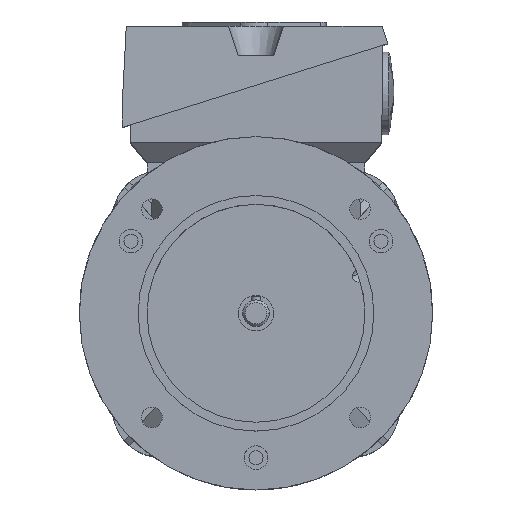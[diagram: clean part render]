
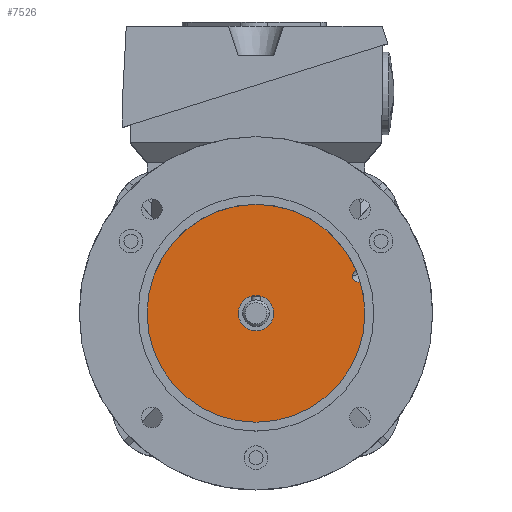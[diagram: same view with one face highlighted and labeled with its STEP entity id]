
A CAD part, top view. The second image highlights one B-rep face of the part: STEP entity #7526.
In plain terms, the highlighted planar face has unit normal (0, 0, 1).
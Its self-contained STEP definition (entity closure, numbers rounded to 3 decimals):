
#129 = VERTEX_POINT ( 'NONE', #9500 ) ;
#350 = CARTESIAN_POINT ( 'NONE',  ( 32.748, 13.344, 4. ) ) ;
#504 =( BOUNDED_CURVE ( )  B_SPLINE_CURVE ( 3, ( #4292, #350, #10384, #12526 ),
 .UNSPECIFIED., .F., .T. ) 
 B_SPLINE_CURVE_WITH_KNOTS ( ( 4, 4 ),
 ( 0.252, 1.111 ),
 .UNSPECIFIED. ) 
 CURVE ( )  GEOMETRIC_REPRESENTATION_ITEM ( )  RATIONAL_B_SPLINE_CURVE ( ( 1., 0.939, 0.939, 1. ) ) 
 REPRESENTATION_ITEM ( '' )  );
#733 = AXIS2_PLACEMENT_3D ( 'NONE', #12467, #11594, #8591 ) ;
#945 = CARTESIAN_POINT ( 'NONE',  ( 0., 0., 4. ) ) ;
#1553 = AXIS2_PLACEMENT_3D ( 'NONE', #8604, #12665, #5609 ) ;
#1748 = ORIENTED_EDGE ( 'NONE', *, *, #8730, .T. ) ;
#2045 = CARTESIAN_POINT ( 'NONE',  ( 33.938, 14.737, 4. ) ) ;
#2162 = AXIS2_PLACEMENT_3D ( 'NONE', #4244, #2436, #6484 ) ;
#2436 = DIRECTION ( 'NONE',  ( 0., 0., 1. ) ) ;
#2978 = AXIS2_PLACEMENT_3D ( 'NONE', #945, #11848, #11984 ) ;
#3227 = EDGE_CURVE ( 'NONE', #129, #4395, #4074, .T. ) ;
#3237 = CARTESIAN_POINT ( 'NONE',  ( 32.748, 12.582, 4. ) ) ;
#3285 = EDGE_LOOP ( 'NONE', ( #1748, #4542, #11821, #10224, #5130 ) ) ;
#3400 = CIRCLE ( 'NONE', #2978, 37. ) ;
#4074 = CIRCLE ( 'NONE', #2162, 37. ) ;
#4244 = CARTESIAN_POINT ( 'NONE',  ( 0., 0., 4. ) ) ;
#4292 = CARTESIAN_POINT ( 'NONE',  ( 32.748, 12.582, 4. ) ) ;
#4395 = VERTEX_POINT ( 'NONE', #11721 ) ;
#4542 = ORIENTED_EDGE ( 'NONE', *, *, #10923, .T. ) ;
#5130 = ORIENTED_EDGE ( 'NONE', *, *, #9622, .T. ) ;
#5165 = CARTESIAN_POINT ( 'NONE',  ( 35.471, 10.526, 4. ) ) ;
#5609 = DIRECTION ( 'NONE',  ( -1., 0., 0. ) ) ;
#6154 = CARTESIAN_POINT ( 'NONE',  ( 32.748, 11.311, 4. ) ) ;
#6306 = PLANE ( 'NONE',  #1553 ) ;
#6422 = VERTEX_POINT ( 'NONE', #2045 ) ;
#6484 = DIRECTION ( 'NONE',  ( 1., 0., 0. ) ) ;
#7526 = ADVANCED_FACE ( 'NONE', ( #7661 ), #6306, .F. ) ;
#7661 = FACE_OUTER_BOUND ( 'NONE', #3285, .T. ) ;
#8109 = EDGE_CURVE ( 'NONE', #4395, #12951, #12334, .T. ) ;
#8283 = CARTESIAN_POINT ( 'NONE',  ( 33.814, 10.505, 4. ) ) ;
#8591 = DIRECTION ( 'NONE',  ( 1., 0., 0. ) ) ;
#8604 = CARTESIAN_POINT ( 'NONE',  ( 0., 0., 4. ) ) ;
#8730 = EDGE_CURVE ( 'NONE', #6422, #11088, #3400, .T. ) ;
#9500 = CARTESIAN_POINT ( 'NONE',  ( 37., 0., 4. ) ) ;
#9622 = EDGE_CURVE ( 'NONE', #12951, #6422, #504, .T. ) ;
#9905 = CARTESIAN_POINT ( 'NONE',  ( -37., 0., 4. ) ) ;
#10224 = ORIENTED_EDGE ( 'NONE', *, *, #8109, .T. ) ;
#10384 = CARTESIAN_POINT ( 'NONE',  ( 33.17, 14.109, 4. ) ) ;
#10923 = EDGE_CURVE ( 'NONE', #11088, #129, #11139, .T. ) ;
#11088 = VERTEX_POINT ( 'NONE', #9905 ) ;
#11139 = CIRCLE ( 'NONE', #733, 37. ) ;
#11194 = CARTESIAN_POINT ( 'NONE',  ( 32.748, 12.582, 4. ) ) ;
#11594 = DIRECTION ( 'NONE',  ( 0., 0., 1. ) ) ;
#11721 = CARTESIAN_POINT ( 'NONE',  ( 35.471, 10.526, 4. ) ) ;
#11821 = ORIENTED_EDGE ( 'NONE', *, *, #3227, .T. ) ;
#11848 = DIRECTION ( 'NONE',  ( 0., 0., 1. ) ) ;
#11984 = DIRECTION ( 'NONE',  ( 1., 0., 0. ) ) ;
#12334 =( BOUNDED_CURVE ( )  B_SPLINE_CURVE ( 3, ( #5165, #8283, #6154, #3237 ),
 .UNSPECIFIED., .F., .T. ) 
 B_SPLINE_CURVE_WITH_KNOTS ( ( 4, 4 ),
 ( 5.172, 6.535 ),
 .UNSPECIFIED. ) 
 CURVE ( )  GEOMETRIC_REPRESENTATION_ITEM ( )  RATIONAL_B_SPLINE_CURVE ( ( 1., 0.851, 0.851, 1. ) ) 
 REPRESENTATION_ITEM ( '' )  );
#12467 = CARTESIAN_POINT ( 'NONE',  ( 0., 0., 4. ) ) ;
#12526 = CARTESIAN_POINT ( 'NONE',  ( 33.938, 14.737, 4. ) ) ;
#12665 = DIRECTION ( 'NONE',  ( 0., 0., -1. ) ) ;
#12951 = VERTEX_POINT ( 'NONE', #11194 ) ;
